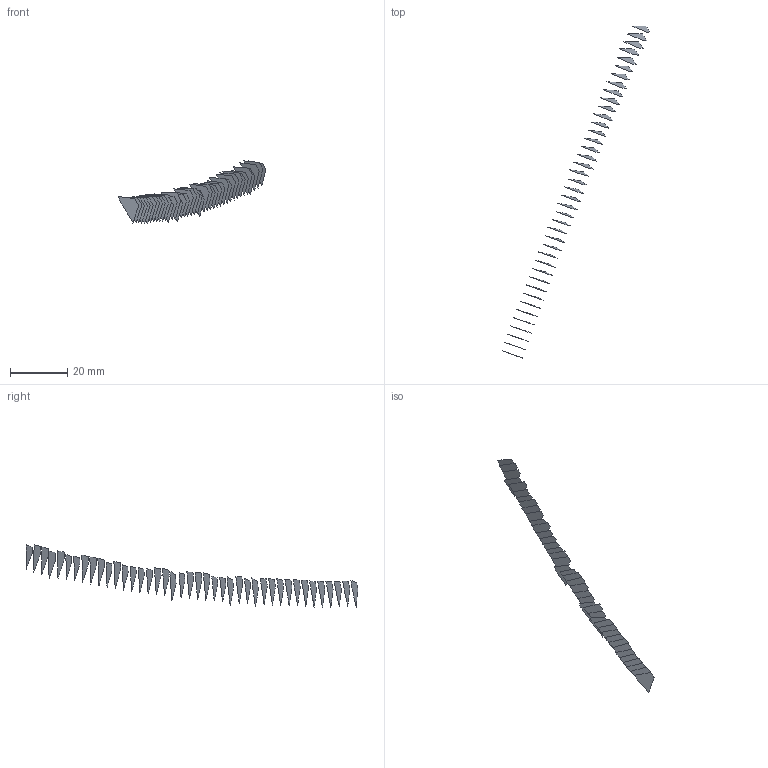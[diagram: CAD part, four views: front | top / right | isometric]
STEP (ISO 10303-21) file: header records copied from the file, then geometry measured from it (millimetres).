
FILE_DESCRIPTION(('FreeCAD Model'),'2;1');
FILE_NAME('Open CASCADE Shape Model','2022-05-22T07:50:25',('FreeCAD'),( 'FreeCAD'),'Open CASCADE STEP processor 7.5','FreeCAD','Unknown');
FILE_SCHEMA(('AUTOMOTIVE_DESIGN { 1 0 10303 214 1 1 1 1 }'));
Length unit declared in the file: millimetre
Products named in the file (42): Open CASCADE STEP translator 7.5 31; Open CASCADE STEP translator 7.5 31.1; Open CASCADE STEP translator 7.5 31.2; Open CASCADE STEP translator 7.5 31.3; Open CASCADE STEP translator 7.5 31.4; Open CASCADE STEP translator 7.5 31.5; Open CASCADE STEP translator 7.5 31.6; Open CASCADE STEP translator 7.5 31.7; Open CASCADE STEP translator 7.5 31.8; Open CASCADE STEP translator 7.5 31.9; Open CASCADE STEP translator 7.5 31.10; Open CASCADE STEP translator 7.5 31.11; Open CASCADE STEP translator 7.5 31.12; Open CASCADE STEP translator 7.5 31.13; Open CASCADE STEP translator 7.5 31.14; Open CASCADE STEP translator 7.5 31.15; Open CASCADE STEP translator 7.5 31.16; Open CASCADE STEP translator 7.5 31.17; Open CASCADE STEP translator 7.5 31.18; Open CASCADE STEP translator 7.5 31.19; Open CASCADE STEP translator 7.5 31.20; Open CASCADE STEP translator 7.5 31.21; Open CASCADE STEP translator 7.5 31.22; Open CASCADE STEP translator 7.5 31.23; Open CASCADE STEP translator 7.5 31.24; Open CASCADE STEP translator 7.5 31.25; Open CASCADE STEP translator 7.5 31.26; Open CASCADE STEP translator 7.5 31.27; Open CASCADE STEP translator 7.5 31.28; Open CASCADE STEP translator 7.5 31.29; Open CASCADE STEP translator 7.5 31.30; Open CASCADE STEP translator 7.5 31.31; Open CASCADE STEP translator 7.5 31.32; Open CASCADE STEP translator 7.5 31.33; Open CASCADE STEP translator 7.5 31.34; Open CASCADE STEP translator 7.5 31.35; Open CASCADE STEP translator 7.5 31.36; Open CASCADE STEP translator 7.5 31.37; Open CASCADE STEP translator 7.5 31.38; Open CASCADE STEP translator 7.5 31.39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
Assembly tree (41 placements, depth 2):
  Open CASCADE STEP translator 7.5 31
    Open CASCADE STEP translator 7.5 31.1
    Open CASCADE STEP translator 7.5 31.2
    Open CASCADE STEP translator 7.5 31.3
    Open CASCADE STEP translator 7.5 31.4
    Open CASCADE STEP translator 7.5 31.5
    Open CASCADE STEP translator 7.5 31.6
    Open CASCADE STEP translator 7.5 31.7
    Open CASCADE STEP translator 7.5 31.8
    Open CASCADE STEP translator 7.5 31.9
    Open CASCADE STEP translator 7.5 31.10
    Open CASCADE STEP translator 7.5 31.11
    Open CASCADE STEP translator 7.5 31.12
    Open CASCADE STEP translator 7.5 31.13
    Open CASCADE STEP translator 7.5 31.14
    Open CASCADE STEP translator 7.5 31.15
    Open CASCADE STEP translator 7.5 31.16
    Open CASCADE STEP translator 7.5 31.17
    Open CASCADE STEP translator 7.5 31.18
    Open CASCADE STEP translator 7.5 31.19
    Open CASCADE STEP translator 7.5 31.20
    Open CASCADE STEP translator 7.5 31.21
    Open CASCADE STEP translator 7.5 31.22
    Open CASCADE STEP translator 7.5 31.23
    Open CASCADE STEP translator 7.5 31.24
    Open CASCADE STEP translator 7.5 31.25
    Open CASCADE STEP translator 7.5 31.26
    Open CASCADE STEP translator 7.5 31.27
    Open CASCADE STEP translator 7.5 31.28
    Open CASCADE STEP translator 7.5 31.29
    Open CASCADE STEP translator 7.5 31.30
    Open CASCADE STEP translator 7.5 31.31
    Open CASCADE STEP translator 7.5 31.32
    Open CASCADE STEP translator 7.5 31.33
    Open CASCADE STEP translator 7.5 31.34
    Open CASCADE STEP translator 7.5 31.35
    Open CASCADE STEP translator 7.5 31.36
    Open CASCADE STEP translator 7.5 31.37
    Open CASCADE STEP translator 7.5 31.38
    Open CASCADE STEP translator 7.5 31.39
    Open CASCADE STEP translator 7.5 31.40
    Open CASCADE STEP translator 7.5 31.41
Bounding box: 51.79 x 116.33 x 21.85 mm (x, y, z)
Surface area: 1347.8 mm2 (no closed solid volume)
Topology: 0 solids, 41 shells, 41 faces, 477 edges, 477 vertices
Faces by surface type: bspline 41
Entity records: 7365 total; most frequent: CARTESIAN_POINT 2591, B_SPLINE_CURVE_WITH_KNOTS 954, ORIENTED_EDGE 477, EDGE_CURVE 477, VERTEX_POINT 477, SURFACE_CURVE 477, PCURVE 477, DEFINITIONAL_REPRESENTATION 477
